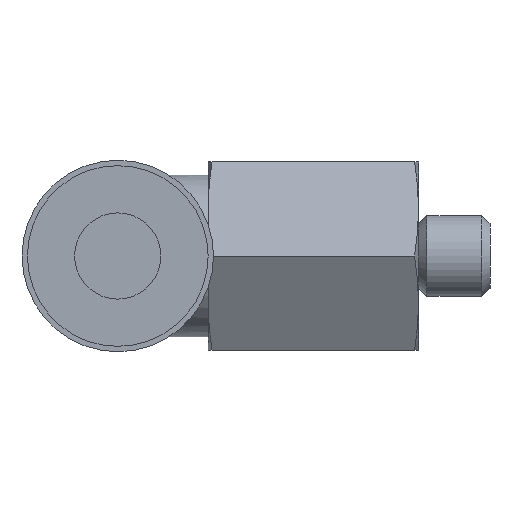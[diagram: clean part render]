
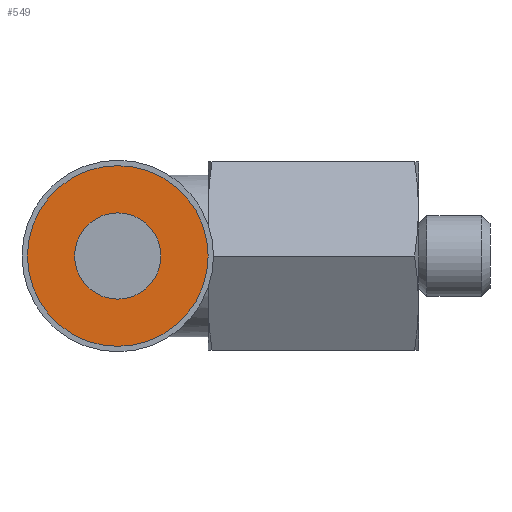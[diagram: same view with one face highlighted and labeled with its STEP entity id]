
A CAD part, left-side view. The second image highlights one B-rep face of the part: STEP entity #549.
In plain terms, the highlighted planar face has unit normal (-1, 0, 0).
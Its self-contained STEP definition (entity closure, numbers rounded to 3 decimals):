
#41=PLANE('',#627);
#191=ORIENTED_EDGE('',*,*,#276,.F.);
#192=ORIENTED_EDGE('',*,*,#277,.F.);
#276=EDGE_CURVE('',#325,#325,#360,.T.);
#277=EDGE_CURVE('',#326,#326,#361,.T.);
#325=VERTEX_POINT('',#1016);
#326=VERTEX_POINT('',#1018);
#360=CIRCLE('',#628,3.35);
#361=CIRCLE('',#629,1.6);
#410=EDGE_LOOP('',(#191));
#411=EDGE_LOOP('',(#192));
#478=FACE_BOUND('',#410,.T.);
#479=FACE_BOUND('',#411,.T.);
#549=ADVANCED_FACE('',(#478,#479),#41,.F.);
#627=AXIS2_PLACEMENT_3D('',#1014,#763,#764);
#628=AXIS2_PLACEMENT_3D('',#1015,#765,#766);
#629=AXIS2_PLACEMENT_3D('',#1017,#767,#768);
#763=DIRECTION('',(1.,0.,0.));
#764=DIRECTION('',(0.,0.,-1.));
#765=DIRECTION('',(1.,0.,0.));
#766=DIRECTION('',(0.,0.,-1.));
#767=DIRECTION('',(-1.,0.,0.));
#768=DIRECTION('',(0.,1.,0.));
#1014=CARTESIAN_POINT('',(-15.3,11.15,0.));
#1015=CARTESIAN_POINT('',(-15.3,11.15,0.));
#1016=CARTESIAN_POINT('',(-15.3,11.15,-3.35));
#1017=CARTESIAN_POINT('',(-15.3,11.15,0.));
#1018=CARTESIAN_POINT('',(-15.3,12.75,0.));
